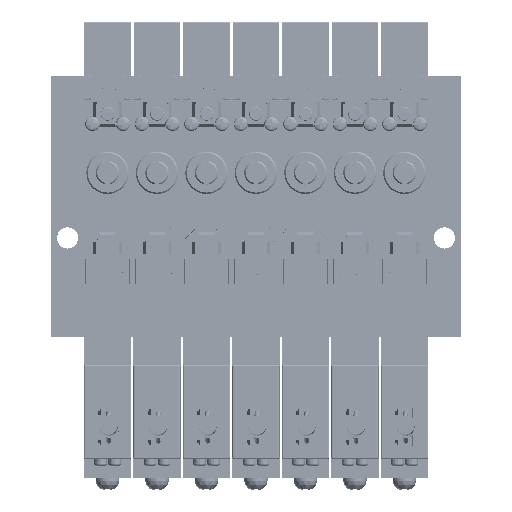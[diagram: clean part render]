
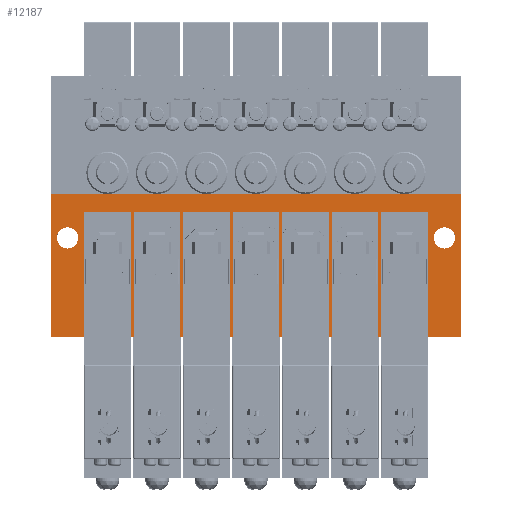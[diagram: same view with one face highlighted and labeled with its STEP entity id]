
A CAD part, top view. The second image highlights one B-rep face of the part: STEP entity #12187.
In plain terms, the highlighted planar face has unit normal (0, 0, 1).
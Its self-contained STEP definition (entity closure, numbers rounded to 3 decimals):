
#12187=ADVANCED_FACE('',(#21060,#21061,#21062),#21063,.F.);
#21060=FACE_BOUND('',#39213,.T.);
#21061=FACE_BOUND('',#39214,.T.);
#21062=FACE_OUTER_BOUND('',#39215,.T.);
#21063=PLANE('',#39216);
#39213=EDGE_LOOP('',(#59863));
#39214=EDGE_LOOP('',(#59864));
#39215=EDGE_LOOP('',(#59865,#59866,#59867,#59868));
#39216=AXIS2_PLACEMENT_3D('',#59869,#59870,#59871);
#59863=ORIENTED_EDGE('',*,*,#129920,.F.);
#59864=ORIENTED_EDGE('',*,*,#129921,.F.);
#59865=ORIENTED_EDGE('',*,*,#129922,.F.);
#59866=ORIENTED_EDGE('',*,*,#129923,.F.);
#59867=ORIENTED_EDGE('',*,*,#129924,.T.);
#59868=ORIENTED_EDGE('',*,*,#129918,.T.);
#59869=CARTESIAN_POINT('',(-87.0,30.3,14.8));
#59870=DIRECTION('',(0.0,0.0,-1.0));
#59871=DIRECTION('',(1.0,0.0,0.0));
#129918=EDGE_CURVE('',#152490,#152488,#152491,.T.);
#129920=EDGE_CURVE('',#152493,#152493,#152494,.T.);
#129921=EDGE_CURVE('',#152495,#152495,#152496,.T.);
#129922=EDGE_CURVE('',#152497,#152488,#152498,.T.);
#129923=EDGE_CURVE('',#152499,#152497,#152500,.T.);
#129924=EDGE_CURVE('',#152499,#152490,#152501,.T.);
#152488=VERTEX_POINT('',#190375);
#152490=VERTEX_POINT('',#190378);
#152491=LINE('',#190379,#190380);
#152493=VERTEX_POINT('',#190383);
#152494=CIRCLE('',#190384,2.25);
#152495=VERTEX_POINT('',#190385);
#152496=CIRCLE('',#190386,2.25);
#152497=VERTEX_POINT('',#190387);
#152498=LINE('',#190388,#190389);
#152499=VERTEX_POINT('',#190390);
#152500=LINE('',#190391,#190392);
#152501=LINE('',#190393,#190394);
#190375=CARTESIAN_POINT('',(0.0,0.,14.8));
#190378=CARTESIAN_POINT('',(-87.0,0.,14.8));
#190379=CARTESIAN_POINT('',(-87.0,0.,14.8));
#190380=VECTOR('',#250539,1.0);
#190383=CARTESIAN_POINT('',(-1.25,21.0,14.8));
#190384=AXIS2_PLACEMENT_3D('',#250541,#250542,#250543);
#190385=CARTESIAN_POINT('',(-81.25,21.0,14.8));
#190386=AXIS2_PLACEMENT_3D('',#250544,#250545,#250546);
#190387=CARTESIAN_POINT('',(0.0,30.3,14.8));
#190388=CARTESIAN_POINT('',(0.0,30.3,14.8));
#190389=VECTOR('',#250547,1.0);
#190390=CARTESIAN_POINT('',(-87.0,30.3,14.8));
#190391=CARTESIAN_POINT('',(-87.0,30.3,14.8));
#190392=VECTOR('',#250548,1.0);
#190393=CARTESIAN_POINT('',(-87.0,30.3,14.8));
#190394=VECTOR('',#250549,1.0);
#250539=DIRECTION('',(1.0,0.0,0.0));
#250541=CARTESIAN_POINT('',(-3.5,21.0,14.8));
#250542=DIRECTION('',(0.0,0.0,1.0));
#250543=DIRECTION('',(1.0,0.0,0.0));
#250544=CARTESIAN_POINT('',(-83.5,21.0,14.8));
#250545=DIRECTION('',(0.0,0.0,1.0));
#250546=DIRECTION('',(1.0,0.0,0.0));
#250547=DIRECTION('',(0.0,-1.0,0.0));
#250548=DIRECTION('',(1.0,0.0,0.0));
#250549=DIRECTION('',(0.0,-1.0,0.0));
